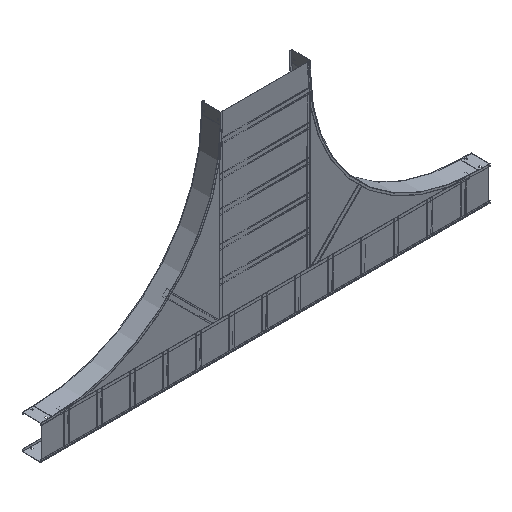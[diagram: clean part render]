
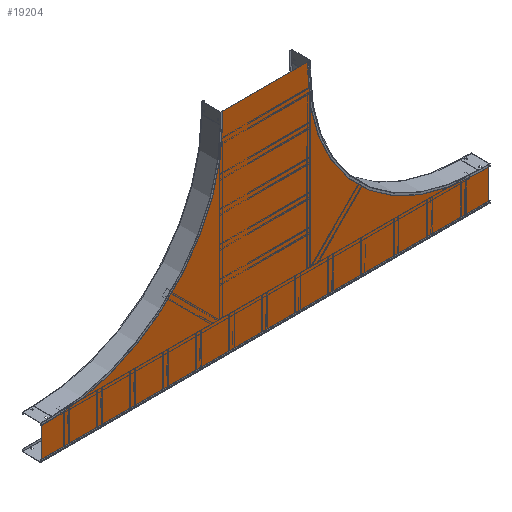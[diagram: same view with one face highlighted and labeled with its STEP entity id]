
A CAD part, isometric view. The second image highlights one B-rep face of the part: STEP entity #19204.
In plain terms, the highlighted planar face has unit normal (0, -1, 0).
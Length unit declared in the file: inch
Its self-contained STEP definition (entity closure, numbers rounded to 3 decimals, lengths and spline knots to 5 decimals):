
#19013=DIRECTION('',(1.,0.,0.));
#19014=VECTOR('',#19013,23.875);
#19015=CARTESIAN_POINT('',(-11.9375,0.,0.));
#19016=LINE('',#19015,#19014);
#19017=DIRECTION('',(0.,0.,-1.));
#19018=VECTOR('',#19017,2.875);
#19019=CARTESIAN_POINT('',(11.9375,0.,0.));
#19020=LINE('',#19019,#19018);
#19021=CARTESIAN_POINT('',(57.,0.,-2.875));
#19022=DIRECTION('',(0.,-1.,0.));
#19023=DIRECTION('',(-1.,0.,0.));
#19024=AXIS2_PLACEMENT_3D('',#19021,#19022,#19023);
#19026=DIRECTION('',(1.,0.,0.));
#19027=VECTOR('',#19026,2.875);
#19028=CARTESIAN_POINT('',(57.,0.,-47.9375));
#19029=LINE('',#19028,#19027);
#19030=DIRECTION('',(0.,0.,-1.));
#19031=VECTOR('',#19030,8.875);
#19032=CARTESIAN_POINT('',(59.875,0.,-47.9375));
#19033=LINE('',#19032,#19031);
#19034=DIRECTION('',(-1.,0.,0.));
#19035=VECTOR('',#19034,119.75);
#19036=CARTESIAN_POINT('',(59.875,0.,-56.8125));
#19037=LINE('',#19036,#19035);
#19038=DIRECTION('',(0.,0.,1.));
#19039=VECTOR('',#19038,8.875);
#19040=CARTESIAN_POINT('',(-59.875,0.,-56.8125));
#19041=LINE('',#19040,#19039);
#19042=DIRECTION('',(1.,0.,0.));
#19043=VECTOR('',#19042,2.875);
#19044=CARTESIAN_POINT('',(-59.875,0.,-47.9375));
#19045=LINE('',#19044,#19043);
#19046=CARTESIAN_POINT('',(-57.,0.,-2.875));
#19047=DIRECTION('',(0.,-1.,0.));
#19048=DIRECTION('',(0.,0.,-1.));
#19049=AXIS2_PLACEMENT_3D('',#19046,#19047,#19048);
#19051=DIRECTION('',(0.,0.,1.));
#19052=VECTOR('',#19051,2.875);
#19053=CARTESIAN_POINT('',(-11.9375,0.,-2.875));
#19054=LINE('',#19053,#19052);
#19137=CARTESIAN_POINT('',(-11.9375,0.,0.));
#19138=CARTESIAN_POINT('',(11.9375,0.,0.));
#19139=VERTEX_POINT('',#19137);
#19140=VERTEX_POINT('',#19138);
#19141=CARTESIAN_POINT('',(11.9375,0.,-2.875));
#19142=VERTEX_POINT('',#19141);
#19143=CARTESIAN_POINT('',(57.,0.,-47.9375));
#19144=VERTEX_POINT('',#19143);
#19145=CARTESIAN_POINT('',(59.875,0.,-47.9375));
#19146=VERTEX_POINT('',#19145);
#19147=CARTESIAN_POINT('',(59.875,0.,-56.8125));
#19148=VERTEX_POINT('',#19147);
#19149=CARTESIAN_POINT('',(-59.875,0.,-56.8125));
#19150=VERTEX_POINT('',#19149);
#19151=CARTESIAN_POINT('',(-59.875,0.,-47.9375));
#19152=VERTEX_POINT('',#19151);
#19153=CARTESIAN_POINT('',(-57.,0.,-47.9375));
#19154=VERTEX_POINT('',#19153);
#19155=CARTESIAN_POINT('',(-11.9375,0.,-2.875));
#19156=VERTEX_POINT('',#19155);
#19177=CARTESIAN_POINT('',(0.,0.,0.));
#19178=DIRECTION('',(0.,1.,0.));
#19179=DIRECTION('',(1.,0.,0.));
#19180=AXIS2_PLACEMENT_3D('',#19177,#19178,#19179);
#19181=PLANE('',#19180);
#19183=ORIENTED_EDGE('',*,*,#19182,.T.);
#19185=ORIENTED_EDGE('',*,*,#19184,.T.);
#19187=ORIENTED_EDGE('',*,*,#19186,.T.);
#19189=ORIENTED_EDGE('',*,*,#19188,.T.);
#19191=ORIENTED_EDGE('',*,*,#19190,.T.);
#19193=ORIENTED_EDGE('',*,*,#19192,.T.);
#19195=ORIENTED_EDGE('',*,*,#19194,.T.);
#19197=ORIENTED_EDGE('',*,*,#19196,.T.);
#19199=ORIENTED_EDGE('',*,*,#19198,.T.);
#19201=ORIENTED_EDGE('',*,*,#19200,.T.);
#19202=EDGE_LOOP('',(#19183,#19185,#19187,#19189,#19191,#19193,#19195,#19197,
#19199,#19201));
#19203=FACE_OUTER_BOUND('',#19202,.F.);
#19204=ADVANCED_FACE('',(#19203),#19181,.F.);
#19025=CIRCLE('',#19024,45.0625);
#19050=CIRCLE('',#19049,45.0625);
#19182=EDGE_CURVE('',#19139,#19140,#19016,.T.);
#19184=EDGE_CURVE('',#19140,#19142,#19020,.T.);
#19186=EDGE_CURVE('',#19142,#19144,#19025,.T.);
#19188=EDGE_CURVE('',#19144,#19146,#19029,.T.);
#19190=EDGE_CURVE('',#19146,#19148,#19033,.T.);
#19192=EDGE_CURVE('',#19148,#19150,#19037,.T.);
#19194=EDGE_CURVE('',#19150,#19152,#19041,.T.);
#19196=EDGE_CURVE('',#19152,#19154,#19045,.T.);
#19198=EDGE_CURVE('',#19154,#19156,#19050,.T.);
#19200=EDGE_CURVE('',#19156,#19139,#19054,.T.);
